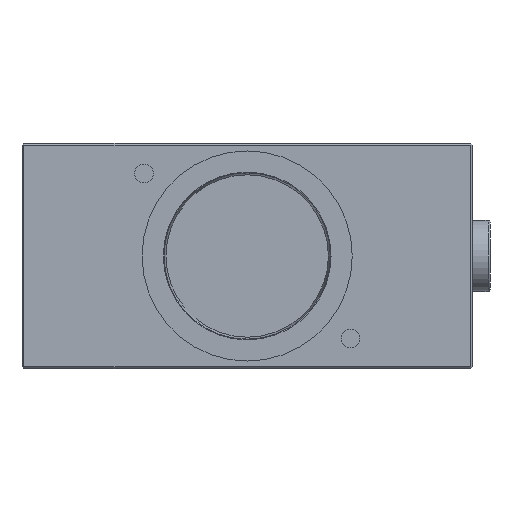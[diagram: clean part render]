
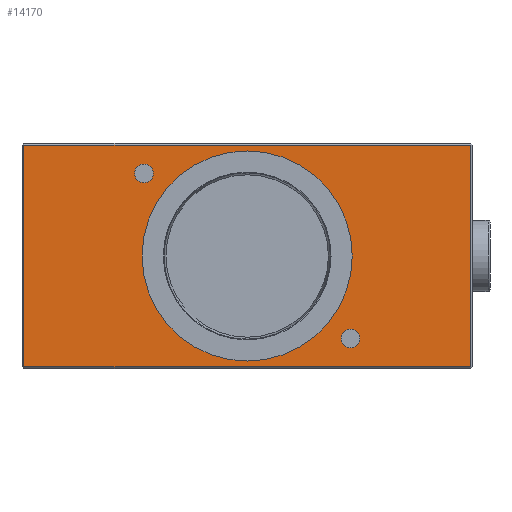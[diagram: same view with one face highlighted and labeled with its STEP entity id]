
A CAD part, left-side view. The second image highlights one B-rep face of the part: STEP entity #14170.
In plain terms, the highlighted planar face has unit normal (-1, 0, 0).
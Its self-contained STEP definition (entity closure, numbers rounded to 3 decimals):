
#772 = EDGE_CURVE ( 'NONE', #4645, #1829, #6246, .T. ) ;
#825 = ORIENTED_EDGE ( 'NONE', *, *, #12581, .F. ) ;
#978 = VERTEX_POINT ( 'NONE', #16085 ) ;
#1600 = FACE_BOUND ( 'NONE', #14124, .T. ) ;
#1697 = ORIENTED_EDGE ( 'NONE', *, *, #15889, .T. ) ;
#1801 = VERTEX_POINT ( 'NONE', #14562 ) ;
#1829 = VERTEX_POINT ( 'NONE', #13627 ) ;
#2031 = ORIENTED_EDGE ( 'NONE', *, *, #14176, .F. ) ;
#2275 = VECTOR ( 'NONE', #2691, 1000. ) ;
#2539 = CARTESIAN_POINT ( 'NONE',  ( 0., 60., -30. ) ) ;
#2597 = CARTESIAN_POINT ( 'NONE',  ( 0., 87.5, -8. ) ) ;
#2691 = DIRECTION ( 'NONE',  ( 0., 0., 1. ) ) ;
#2765 = CARTESIAN_POINT ( 'NONE',  ( 0., 119.5, -60. ) ) ;
#3297 = DIRECTION ( 'NONE',  ( 0., 0., 1. ) ) ;
#3317 = CARTESIAN_POINT ( 'NONE',  ( 0., 87.5, -8. ) ) ;
#3329 = DIRECTION ( 'NONE',  ( -1., 0., 0. ) ) ;
#3347 = CARTESIAN_POINT ( 'NONE',  ( 0., 60., -30. ) ) ;
#3622 = FACE_BOUND ( 'NONE', #12782, .T. ) ;
#3807 = DIRECTION ( 'NONE',  ( 0., 0., 1. ) ) ;
#3865 = DIRECTION ( 'NONE',  ( 0., 0., 1. ) ) ;
#4180 = CARTESIAN_POINT ( 'NONE',  ( 0., 87.5, -10.5 ) ) ;
#4200 = VECTOR ( 'NONE', #6064, 1000. ) ;
#4557 = DIRECTION ( 'NONE',  ( 0., 0., 1. ) ) ;
#4645 = VERTEX_POINT ( 'NONE', #14514 ) ;
#4777 = VERTEX_POINT ( 'NONE', #11206 ) ;
#5132 = DIRECTION ( 'NONE',  ( 0., 0., -1. ) ) ;
#5240 = EDGE_CURVE ( 'NONE', #1829, #4645, #14962, .T. ) ;
#5251 = CIRCLE ( 'NONE', #5568, 2.5 ) ;
#5288 = CARTESIAN_POINT ( 'NONE',  ( 0., 119.5, -0.5 ) ) ;
#5387 = ORIENTED_EDGE ( 'NONE', *, *, #5240, .F. ) ;
#5430 = AXIS2_PLACEMENT_3D ( 'NONE', #13461, #6191, #14736 ) ;
#5568 = AXIS2_PLACEMENT_3D ( 'NONE', #2597, #11177, #3865 ) ;
#5688 = PLANE ( 'NONE',  #14885 ) ;
#5759 = EDGE_CURVE ( 'NONE', #1801, #13251, #11083, .T. ) ;
#5799 = CARTESIAN_POINT ( 'NONE',  ( 0., 32.5, -52. ) ) ;
#6064 = DIRECTION ( 'NONE',  ( 0., 1., 0. ) ) ;
#6191 = DIRECTION ( 'NONE',  ( -1., 0., 0. ) ) ;
#6246 = CIRCLE ( 'NONE', #13220, 28. ) ;
#6487 = VERTEX_POINT ( 'NONE', #9658 ) ;
#6636 = CARTESIAN_POINT ( 'NONE',  ( 0., 0.5, -59.5 ) ) ;
#6693 = CIRCLE ( 'NONE', #14036, 2.5 ) ;
#6734 = VECTOR ( 'NONE', #5132, 1000. ) ;
#6836 = DIRECTION ( 'NONE',  ( 0., -1., 0. ) ) ;
#6987 = DIRECTION ( 'NONE',  ( -1., 0., 0. ) ) ;
#7033 = DIRECTION ( 'NONE',  ( 0., 0., 1. ) ) ;
#7106 = LINE ( 'NONE', #2765, #6734 ) ;
#7770 = AXIS2_PLACEMENT_3D ( 'NONE', #5799, #14337, #7033 ) ;
#7789 = LINE ( 'NONE', #12892, #13877 ) ;
#8275 = CIRCLE ( 'NONE', #5430, 2.5 ) ;
#8332 = ORIENTED_EDGE ( 'NONE', *, *, #9626, .F. ) ;
#8516 = EDGE_CURVE ( 'NONE', #4777, #978, #9102, .T. ) ;
#8600 = FACE_OUTER_BOUND ( 'NONE', #15059, .T. ) ;
#9102 = CIRCLE ( 'NONE', #7770, 2.5 ) ;
#9626 = EDGE_CURVE ( 'NONE', #978, #4777, #8275, .T. ) ;
#9658 = CARTESIAN_POINT ( 'NONE',  ( 0., 119.5, -59.5 ) ) ;
#9827 = EDGE_CURVE ( 'NONE', #12418, #1801, #15339, .T. ) ;
#10646 = VERTEX_POINT ( 'NONE', #12773 ) ;
#11083 = LINE ( 'NONE', #14567, #4200 ) ;
#11126 = DIRECTION ( 'NONE',  ( -1., 0., 0. ) ) ;
#11177 = DIRECTION ( 'NONE',  ( -1., 0., 0. ) ) ;
#11206 = CARTESIAN_POINT ( 'NONE',  ( 0., 32.5, -49.5 ) ) ;
#11464 = EDGE_CURVE ( 'NONE', #6487, #12418, #7789, .T. ) ;
#11700 = ORIENTED_EDGE ( 'NONE', *, *, #8516, .F. ) ;
#11867 = DIRECTION ( 'NONE',  ( -1., 0., 0. ) ) ;
#12418 = VERTEX_POINT ( 'NONE', #6636 ) ;
#12442 = CARTESIAN_POINT ( 'NONE',  ( 0., 0.5, -60. ) ) ;
#12581 = EDGE_CURVE ( 'NONE', #10646, #12770, #5251, .T. ) ;
#12770 = VERTEX_POINT ( 'NONE', #4180 ) ;
#12773 = CARTESIAN_POINT ( 'NONE',  ( 0., 87.5, -5.5 ) ) ;
#12782 = EDGE_LOOP ( 'NONE', ( #825, #2031 ) ) ;
#12892 = CARTESIAN_POINT ( 'NONE',  ( 0., 0., -59.5 ) ) ;
#13068 = ORIENTED_EDGE ( 'NONE', *, *, #9827, .T. ) ;
#13220 = AXIS2_PLACEMENT_3D ( 'NONE', #3347, #3329, #3297 ) ;
#13251 = VERTEX_POINT ( 'NONE', #5288 ) ;
#13390 = AXIS2_PLACEMENT_3D ( 'NONE', #2539, #11126, #3807 ) ;
#13461 = CARTESIAN_POINT ( 'NONE',  ( 0., 32.5, -52. ) ) ;
#13627 = CARTESIAN_POINT ( 'NONE',  ( 0., 60., -2. ) ) ;
#13715 = ORIENTED_EDGE ( 'NONE', *, *, #11464, .T. ) ;
#13877 = VECTOR ( 'NONE', #6836, 1000. ) ;
#14036 = AXIS2_PLACEMENT_3D ( 'NONE', #3317, #11867, #4557 ) ;
#14124 = EDGE_LOOP ( 'NONE', ( #11700, #8332 ) ) ;
#14170 = ADVANCED_FACE ( 'NONE', ( #8600, #3622, #1600, #14324 ), #5688, .T. ) ;
#14176 = EDGE_CURVE ( 'NONE', #12770, #10646, #6693, .T. ) ;
#14274 = CARTESIAN_POINT ( 'NONE',  ( 0., 0., -60. ) ) ;
#14324 = FACE_BOUND ( 'NONE', #15837, .T. ) ;
#14337 = DIRECTION ( 'NONE',  ( -1., 0., 0. ) ) ;
#14514 = CARTESIAN_POINT ( 'NONE',  ( 0., 60., -58. ) ) ;
#14562 = CARTESIAN_POINT ( 'NONE',  ( 0., 0.5, -0.5 ) ) ;
#14567 = CARTESIAN_POINT ( 'NONE',  ( 0., 120., -0.5 ) ) ;
#14736 = DIRECTION ( 'NONE',  ( 0., 0., 1. ) ) ;
#14885 = AXIS2_PLACEMENT_3D ( 'NONE', #14274, #6987, #15518 ) ;
#14962 = CIRCLE ( 'NONE', #13390, 28. ) ;
#14994 = ORIENTED_EDGE ( 'NONE', *, *, #772, .F. ) ;
#15059 = EDGE_LOOP ( 'NONE', ( #13715, #13068, #15825, #1697 ) ) ;
#15339 = LINE ( 'NONE', #12442, #2275 ) ;
#15518 = DIRECTION ( 'NONE',  ( 0., 0., 1. ) ) ;
#15825 = ORIENTED_EDGE ( 'NONE', *, *, #5759, .T. ) ;
#15837 = EDGE_LOOP ( 'NONE', ( #5387, #14994 ) ) ;
#15889 = EDGE_CURVE ( 'NONE', #13251, #6487, #7106, .T. ) ;
#16085 = CARTESIAN_POINT ( 'NONE',  ( 0., 32.5, -54.5 ) ) ;
